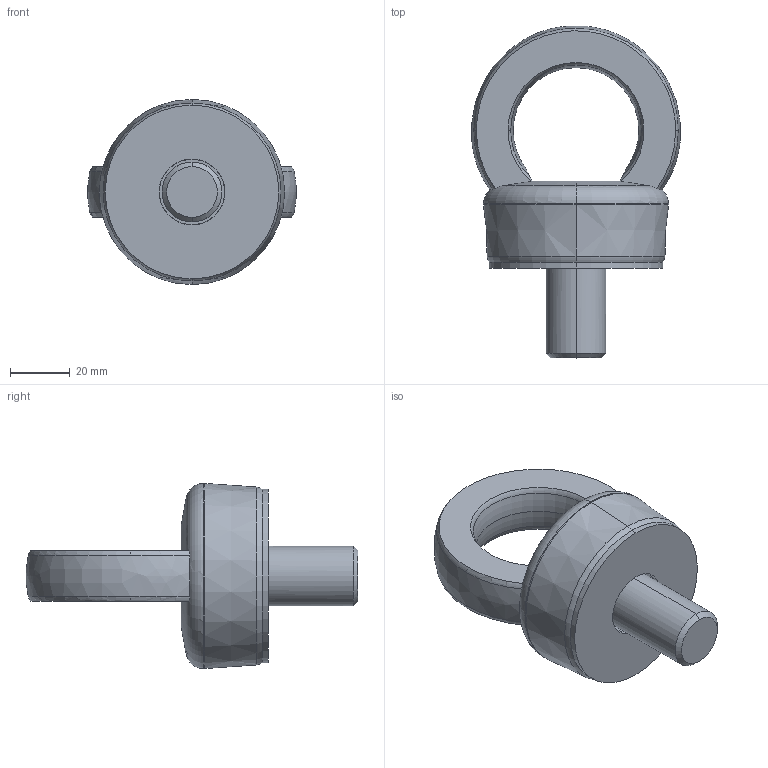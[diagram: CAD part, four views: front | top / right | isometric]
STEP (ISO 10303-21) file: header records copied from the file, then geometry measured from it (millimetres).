
FILE_DESCRIPTION(('CATIA V5 STEP Exchange'),'2;1');
FILE_NAME('C:\Users\Raffaele\Desktop\3D X SITO CF\GOLFARI\817XC\C817X20\STEP-2.03\C817X20.stp','2019-07-01T07:22:17+00:00',('none'),('none'),'CATIA Version 5 Release 20 GA (IN-10)','CATIA V5 STEP AP203','none');
FILE_SCHEMA(('CONFIG_CONTROL_DESIGN'));
Length unit declared in the file: millimetre
Products named in the file (1): _C817X20
Bounding box: 69.78 x 110.9 x 61.86 mm (x, y, z)
Volume: 111107.4 mm3; surface area: 24034.2 mm2
Topology: 1 solids, 1 shells, 63 faces, 184 edges, 126 vertices
Faces by surface type: torus 26, plane 15, cylinder 12, cone 8, bspline 2
Entity records: 2410 total; most frequent: CARTESIAN_POINT 814, ORIENTED_EDGE 368, DIRECTION 245, EDGE_CURVE 184, AXIS2_PLACEMENT_3D 155, VERTEX_POINT 126, CIRCLE 99, EDGE_LOOP 68
